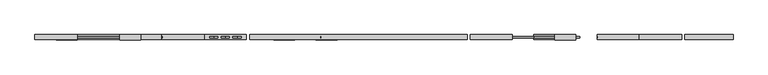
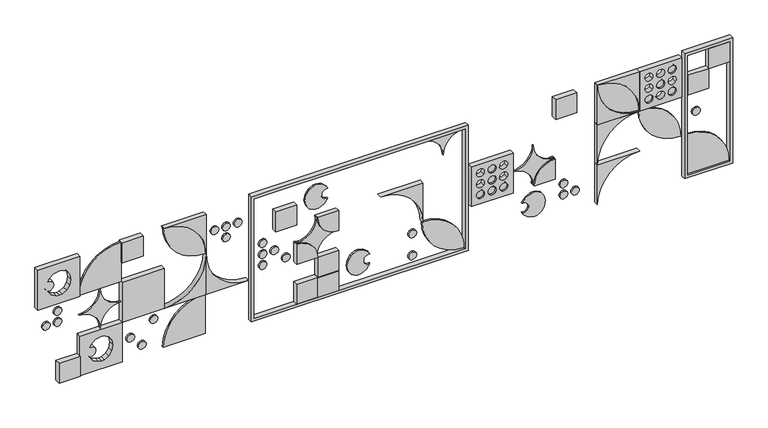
"""IFC4 building model written with IfcOpenShell, lengths in millimetres: proxy geometry, Modelos genéricos - (reduzido)PAINEL VAZADO - 90CM - (reduzido)PAINEL VAZADO - 90CM."""

from ifc_helpers import new_model, si_unit, point, frame, frame_2d, origin, place, context, project, spatial, polyline, circle_curve, trimmed, segment, composite_curve, outline, extrude, source, transform, mapped, element, save
from ifc_brep_helpers import plane_surface, revolved_surface, advanced_brep


def generic_models_16d8a0b0(model_context):
    return source(origin(), model_context, "Body", "SolidModel", [
        extrude(outline(composite_curve([segment(trimmed(circle_curve(frame_2d((660.0, 6604.0616384)), 40.0), [point((700.0, 6604.0616384))], [point((620.0, 6604.0616384))], False, "CARTESIAN"), True, "CONTINUOUS"), segment(trimmed(circle_curve(frame_2d((660.0, 6604.0616384)), 40.0), [point((620.0, 6604.0616384))], [point((700.0, 6604.0616384))], False, "CARTESIAN"), True, "CONTINUOUS")], self_intersect=False)), frame((0.0, -35.0, 0.0), z_axis=(0.0, 1.0, 0.0), x_axis=(0.0, 0.0, 1.0)), (0.0, 0.0, 1.0), 15.0),
        extrude(outline(composite_curve([segment(trimmed(circle_curve(frame_2d((870.0, 1290.0)), 420.0), [point((870.0, 1710.0))], [point((1290.0, 1290.0))], False, "CARTESIAN"), True, "CONTINUOUS"), segment(trimmed(circle_curve(frame_2d((1290.0, 1710.0)), 420.0), [point((1290.0, 1290.0))], [point((870.0, 1710.0))], False, "CARTESIAN"), True, "CONTINUOUS")], self_intersect=False)), frame((0.0, -35.0, 0.0), z_axis=(0.0, 1.0, 0.0), x_axis=(0.0, 0.0, 1.0)), (0.0, 0.0, 1.0), 15.0),
        extrude(outline(composite_curve([segment(polyline([(450.0, 3870.0), (870.0, 3870.0), (870.0, 3450.0)]), True, "CONTINUOUS"), segment(trimmed(circle_curve(frame_2d((450.0, 3450.0)), 420.0), [point((870.0, 3450.0))], [point((450.0, 3870.0))], True, "CARTESIAN"), True, "CONTINUOUS")], self_intersect=False)), frame((0.0, -50.0, 0.0), z_axis=(0.0, 1.0, 0.0), x_axis=(0.0, 0.0, 1.0)), (0.0, 0.0, 1.0), 50.0),
        extrude(outline(composite_curve([segment(trimmed(circle_curve(frame_2d((1195.9383616, 6355.9383616)), 40.0), [point((1235.9383616, 6355.9383616))], [point((1155.9383616, 6355.9383616))], False, "CARTESIAN"), True, "CONTINUOUS"), segment(trimmed(circle_curve(frame_2d((1195.9383616, 6355.9383616)), 40.0), [point((1155.9383616, 6355.9383616))], [point((1235.9383616, 6355.9383616))], False, "CARTESIAN"), True, "CONTINUOUS")], self_intersect=False)), frame((0.0, -35.0, 0.0), z_axis=(0.0, 1.0, 0.0), x_axis=(0.0, 0.0, 1.0)), (0.0, 0.0, 1.0), 15.0),
        extrude(outline(composite_curve([segment(polyline([(30.0, 1710.0), (450.0, 1710.0)]), True, "CONTINUOUS"), segment(trimmed(circle_curve(frame_2d((30.0, 1710.0)), 420.0), [point((450.0, 1710.0))], [point((30.0, 1290.0))], False, "CARTESIAN"), True, "CONTINUOUS"), segment(polyline([(30.0, 1290.0), (30.0, 1710.0)]), True, "CONTINUOUS")], self_intersect=False)), frame((0.0, -35.0, 0.0), z_axis=(0.0, 1.0, 0.0), x_axis=(0.0, 0.0, 1.0)), (0.0, 0.0, 1.0), 15.0),
        extrude(outline(composite_curve([segment(polyline([(870.0, 1710.0), (450.0, 1710.0), (450.0, 2130.0)]), True, "CONTINUOUS"), segment(trimmed(circle_curve(frame_2d((870.0, 2130.0)), 420.0), [point((450.0, 2130.0))], [point((870.0, 1710.0))], True, "CARTESIAN"), True, "CONTINUOUS")], self_intersect=False)), frame((0.0, -50.0, 0.0), z_axis=(0.0, 1.0, 0.0), x_axis=(0.0, 0.0, 1.0)), (0.0, 0.0, 1.0), 50.0),
        extrude(outline(polyline([(30.0, 870.0), (450.0, 870.0), (450.0, 450.0), (30.0, 450.0), (30.0, 870.0)]), holes=[composite_curve([segment(polyline([(357.751931, 610.1618033), (371.3797598, 667.3986814), (368.1516151, 692.1601848), (343.2895761, 736.7788723), (298.4897299, 767.655962), (242.6252354, 778.6758678), (186.7607408, 767.655962), (141.9608946, 736.7788723), (117.0988556, 692.1601848), (113.8707109, 667.3986814), (117.3468229, 637.8957399), (144.0396777, 585.1759976), (191.7379869, 549.9753005)]), True, "CONTINUOUS"), segment(trimmed(circle_curve(frame_2d((242.8329614, 560.4172169)), 52.151031), [point((191.7379869, 549.9753005))], [point((293.9674777, 550.1706919))], False, "CARTESIAN"), True, "CONTINUOUS"), segment(polyline([(293.9674777, 550.1706919), (319.7532787, 565.0412277), (357.751931, 610.1618033)]), True, "CONTINUOUS")], self_intersect=False)]), frame((0.0, -50.0, 0.0), z_axis=(0.0, 1.0, 0.0), x_axis=(0.0, 0.0, 1.0)), (0.0, 0.0, 1.0), 50.0),
        extrude(outline(polyline([(6720.0, -50.0), (6720.0, 0.0), (6930.0, 0.0), (6930.0, -50.0), (6720.0, -50.0)])), frame((0.0, 0.0, 1080.0), z_axis=(0.0, 0.0, 1.0), x_axis=(1.0, 0.0, 0.0)), (0.0, 0.0, 1.0), 210.0),
        extrude(outline(composite_curve([segment(trimmed(circle_curve(frame_2d((450.0, 5190.0)), 210.0), [point((450.0, 4980.0))], [point((660.0, 5190.0))], True, "CARTESIAN"), True, "CONTINUOUS"), segment(trimmed(circle_curve(frame_2d((870.0, 5190.0)), 210.0), [point((660.0, 5190.0))], [point((870.0, 4980.0))], True, "CARTESIAN"), True, "CONTINUOUS"), segment(trimmed(circle_curve(frame_2d((870.0, 4770.0)), 210.0), [point((870.0, 4980.0))], [point((660.0, 4770.0))], True, "CARTESIAN"), True, "CONTINUOUS"), segment(trimmed(circle_curve(frame_2d((450.0, 4770.0)), 210.0), [point((660.0, 4770.0))], [point((450.0, 4980.0))], True, "CARTESIAN"), True, "CONTINUOUS")], self_intersect=False)), frame((0.0, -35.0, 0.0), z_axis=(0.0, 1.0, 0.0), x_axis=(0.0, 0.0, 1.0)), (0.0, 0.0, 1.0), 15.0),
        extrude(outline(composite_curve([segment(trimmed(circle_curve(frame_2d((544.953472, 4444.0616384)), 40.0), [point((584.953472, 4444.0616384))], [point((504.953472, 4444.0616384))], False, "CARTESIAN"), True, "CONTINUOUS"), segment(trimmed(circle_curve(frame_2d((544.953472, 4444.0616384)), 40.0), [point((504.953472, 4444.0616384))], [point((584.953472, 4444.0616384))], False, "CARTESIAN"), True, "CONTINUOUS")], self_intersect=False)), frame((0.0, -35.0, 0.0), z_axis=(0.0, 1.0, 0.0), x_axis=(0.0, 0.0, 1.0)), (0.0, 0.0, 1.0), 15.0),
        extrude(outline(composite_curve([segment(polyline([(870.0, 1710.0), (1290.0, 1710.0), (1290.0, 1290.0)]), True, "CONTINUOUS"), segment(trimmed(circle_curve(frame_2d((870.0, 1290.0)), 420.0), [point((1290.0, 1290.0))], [point((870.0, 1710.0))], True, "CARTESIAN"), True, "CONTINUOUS")], self_intersect=False)), frame((0.0, -50.0, 0.0), z_axis=(0.0, 1.0, 0.0), x_axis=(0.0, 0.0, 1.0)), (0.0, 0.0, 1.0), 50.0),
        extrude(outline(polyline([(240.0, -55.0), (240.0, 0.0), (450.0, 0.0), (450.0, -55.0), (240.0, -55.0)])), frame((0.0, 0.0, 30.0), z_axis=(0.0, 0.0, 1.0), x_axis=(1.0, 0.0, 0.0)), (0.0, 0.0, 1.0), 210.0),
        extrude(outline(composite_curve([segment(trimmed(circle_curve(frame_2d((1080.0, 4290.0)), 210.0), [point((1080.0, 4080.0))], [point((1290.0, 4290.0))], True, "CARTESIAN"), True, "CONTINUOUS"), segment(polyline([(1290.0, 4290.0), (1290.0, 3870.0)]), True, "CONTINUOUS"), segment(trimmed(circle_curve(frame_2d((1080.0, 3870.0)), 210.0), [point((1290.0, 3870.0))], [point((1080.0, 4080.0))], True, "CARTESIAN"), True, "CONTINUOUS")], self_intersect=False)), frame((0.0, -35.0, 0.0), z_axis=(0.0, 1.0, 0.0), x_axis=(0.0, 0.0, 1.0)), (0.0, 0.0, 1.0), 15.0),
        extrude(outline(composite_curve([segment(trimmed(circle_curve(frame_2d((660.0, 2400.0)), 40.0), [point((700.0, 2400.0))], [point((620.0, 2400.0))], False, "CARTESIAN"), True, "CONTINUOUS"), segment(trimmed(circle_curve(frame_2d((660.0, 2400.0)), 40.0), [point((620.0, 2400.0))], [point((700.0, 2400.0))], False, "CARTESIAN"), True, "CONTINUOUS")], self_intersect=False)), frame((0.0, -35.0, 0.0), z_axis=(0.0, 1.0, 0.0), x_axis=(0.0, 0.0, 1.0)), (0.0, 0.0, 1.0), 15.0),
        extrude(outline(polyline([(870.0, 6450.0), (1290.0, 6450.0), (1290.0, 6030.0), (870.0, 6030.0), (870.0, 6450.0)]), holes=[composite_curve([segment(trimmed(circle_curve(frame_2d((1080.0, 6124.0616384)), 40.0), [point((1103.5114101, 6091.7009587))], [point((1056.4885899, 6156.4223182))], True, "CARTESIAN"), True, "CONTINUOUS"), segment(trimmed(circle_curve(frame_2d((1080.0, 6124.0616384)), 40.0), [point((1056.4885899, 6156.4223182))], [point((1103.5114101, 6091.7009587))], True, "CARTESIAN"), True, "CONTINUOUS")], self_intersect=False), composite_curve([segment(trimmed(circle_curve(frame_2d((964.953472, 6355.9383616)), 40.0), [point((941.4420619, 6388.2990413))], [point((988.4648821, 6323.5776818))], True, "CARTESIAN"), True, "CONTINUOUS"), segment(trimmed(circle_curve(frame_2d((964.953472, 6355.9383616)), 40.0), [point((988.4648821, 6323.5776818))], [point((941.4420619, 6388.2990413))], True, "CARTESIAN"), True, "CONTINUOUS")], self_intersect=False), composite_curve([segment(trimmed(circle_curve(frame_2d((1195.9383616, 6355.9383616)), 40.0), [point((1172.4269515, 6388.2990413))], [point((1219.4497717, 6323.5776818))], True, "CARTESIAN"), True, "CONTINUOUS"), segment(trimmed(circle_curve(frame_2d((1195.9383616, 6355.9383616)), 40.0), [point((1219.4497717, 6323.5776818))], [point((1172.4269515, 6388.2990413))], True, "CARTESIAN"), True, "CONTINUOUS")], self_intersect=False), composite_curve([segment(trimmed(circle_curve(frame_2d((1080.0, 6240.0)), 40.0), [point((1047.6393202, 6216.4885899))], [point((1112.3606798, 6263.5114101))], True, "CARTESIAN"), True, "CONTINUOUS"), segment(trimmed(circle_curve(frame_2d((1080.0, 6240.0)), 40.0), [point((1112.3606798, 6263.5114101))], [point((1047.6393202, 6216.4885899))], True, "CARTESIAN"), True, "CONTINUOUS")], self_intersect=False), composite_curve([segment(trimmed(circle_curve(frame_2d((964.953472, 6240.0)), 40.0), [point((932.5927922, 6216.4885899))], [point((997.3141518, 6263.5114101))], True, "CARTESIAN"), True, "CONTINUOUS"), segment(trimmed(circle_curve(frame_2d((964.953472, 6240.0)), 40.0), [point((997.3141518, 6263.5114101))], [point((932.5927922, 6216.4885899))], True, "CARTESIAN"), True, "CONTINUOUS")], self_intersect=False), composite_curve([segment(trimmed(circle_curve(frame_2d((1195.9383616, 6240.0)), 40.0), [point((1163.5776818, 6216.4885899))], [point((1228.2990413, 6263.5114101))], True, "CARTESIAN"), True, "CONTINUOUS"), segment(trimmed(circle_curve(frame_2d((1195.9383616, 6240.0)), 40.0), [point((1228.2990413, 6263.5114101))], [point((1163.5776818, 6216.4885899))], True, "CARTESIAN"), True, "CONTINUOUS")], self_intersect=False), composite_curve([segment(trimmed(circle_curve(frame_2d((1080.0, 6355.9383616)), 40.0), [point((1056.4885899, 6388.2990413))], [point((1103.5114101, 6323.5776818))], True, "CARTESIAN"), True, "CONTINUOUS"), segment(trimmed(circle_curve(frame_2d((1080.0, 6355.9383616)), 40.0), [point((1103.5114101, 6323.5776818))], [point((1056.4885899, 6388.2990413))], True, "CARTESIAN"), True, "CONTINUOUS")], self_intersect=False), composite_curve([segment(trimmed(circle_curve(frame_2d((1195.9383616, 6124.0616384)), 40.0), [point((1219.4497717, 6091.7009587))], [point((1172.4269515, 6156.4223182))], True, "CARTESIAN"), True, "CONTINUOUS"), segment(trimmed(circle_curve(frame_2d((1195.9383616, 6124.0616384)), 40.0), [point((1172.4269515, 6156.4223182))], [point((1219.4497717, 6091.7009587))], True, "CARTESIAN"), True, "CONTINUOUS")], self_intersect=False), composite_curve([segment(trimmed(circle_curve(frame_2d((964.953472, 6124.0616384)), 40.0), [point((988.4648821, 6091.7009587))], [point((941.4420619, 6156.4223182))], True, "CARTESIAN"), True, "CONTINUOUS"), segment(trimmed(circle_curve(frame_2d((964.953472, 6124.0616384)), 40.0), [point((941.4420619, 6156.4223182))], [point((988.4648821, 6091.7009587))], True, "CARTESIAN"), True, "CONTINUOUS")], self_intersect=False)]), frame((0.0, -50.0, 0.0), z_axis=(0.0, 1.0, 0.0), x_axis=(0.0, 0.0, 1.0)), (0.0, 0.0, 1.0), 50.0),
        extrude(outline(composite_curve([segment(trimmed(circle_curve(frame_2d((544.953472, 2284.0616384)), 40.0), [point((584.953472, 2284.0616384))], [point((504.953472, 2284.0616384))], False, "CARTESIAN"), True, "CONTINUOUS"), segment(trimmed(circle_curve(frame_2d((544.953472, 2284.0616384)), 40.0), [point((504.953472, 2284.0616384))], [point((584.953472, 2284.0616384))], False, "CARTESIAN"), True, "CONTINUOUS")], self_intersect=False)), frame((0.0, -35.0, 0.0), z_axis=(0.0, 1.0, 0.0), x_axis=(0.0, 0.0, 1.0)), (0.0, 0.0, 1.0), 15.0),
        extrude(outline(composite_curve([segment(trimmed(circle_curve(frame_2d((1080.0, 1804.0616384)), 40.0), [point((1120.0, 1804.0616384))], [point((1040.0, 1804.0616384))], False, "CARTESIAN"), True, "CONTINUOUS"), segment(trimmed(circle_curve(frame_2d((1080.0, 1804.0616384)), 40.0), [point((1040.0, 1804.0616384))], [point((1120.0, 1804.0616384))], False, "CARTESIAN"), True, "CONTINUOUS")], self_intersect=False)), frame((0.0, -35.0, 0.0), z_axis=(0.0, 1.0, 0.0), x_axis=(0.0, 0.0, 1.0)), (0.0, 0.0, 1.0), 15.0),
        extrude(outline(composite_curve([segment(trimmed(circle_curve(frame_2d((450.0, 3030.0)), 210.0), [point((450.0, 2820.0))], [point((660.0, 3030.0))], True, "CARTESIAN"), True, "CONTINUOUS"), segment(trimmed(circle_curve(frame_2d((870.0, 3030.0)), 210.0), [point((660.0, 3030.0))], [point((870.0, 2820.0))], True, "CARTESIAN"), True, "CONTINUOUS"), segment(trimmed(circle_curve(frame_2d((870.0, 2610.0)), 210.0), [point((870.0, 2820.0))], [point((660.0, 2610.0))], True, "CARTESIAN"), True, "CONTINUOUS"), segment(trimmed(circle_curve(frame_2d((450.0, 2610.0)), 210.0), [point((660.0, 2610.0))], [point((450.0, 2820.0))], True, "CARTESIAN"), True, "CONTINUOUS")], self_intersect=False)), frame((0.0, -35.0, 0.0), z_axis=(0.0, 1.0, 0.0), x_axis=(0.0, 0.0, 1.0)), (0.0, 0.0, 1.0), 15.0),
        extrude(outline(polyline([(1320.0, 6960.0), (1320.0, 6480.0), (0.0, 6480.0), (0.0, 6960.0), (1320.0, 6960.0)]), holes=[polyline([(1290.0, 6930.0), (30.0, 6930.0), (30.0, 6510.0), (1290.0, 6510.0), (1290.0, 6930.0)])]), frame((0.0, -50.0, 0.0), z_axis=(0.0, 1.0, 0.0), x_axis=(0.0, 0.0, 1.0)), (0.0, 0.0, 1.0), 50.0),
        extrude(outline(composite_curve([segment(polyline([(870.0, 3030.0), (870.0, 2820.0)]), True, "CONTINUOUS"), segment(trimmed(circle_curve(frame_2d((870.0, 3030.0)), 210.0), [point((870.0, 2820.0))], [point((660.0, 3030.0))], False, "CARTESIAN"), True, "CONTINUOUS"), segment(polyline([(660.0, 3030.0), (870.0, 3030.0)]), True, "CONTINUOUS")], self_intersect=False)), frame((0.0, -50.0, 0.0), z_axis=(0.0, 1.0, 0.0), x_axis=(0.0, 0.0, 1.0)), (0.0, 0.0, 1.0), 50.0),
        extrude(outline(composite_curve([segment(trimmed(circle_curve(frame_2d((124.953472, 3775.9383616)), 40.0), [point((164.953472, 3775.9383616))], [point((84.953472, 3775.9383616))], False, "CARTESIAN"), True, "CONTINUOUS"), segment(trimmed(circle_curve(frame_2d((124.953472, 3775.9383616)), 40.0), [point((84.953472, 3775.9383616))], [point((164.953472, 3775.9383616))], False, "CARTESIAN"), True, "CONTINUOUS")], self_intersect=False)), frame((0.0, -35.0, 0.0), z_axis=(0.0, 1.0, 0.0), x_axis=(0.0, 0.0, 1.0)), (0.0, 0.0, 1.0), 15.0),
        extrude(outline(polyline([(1320.0, 4320.0), (1320.0, 2160.0), (0.0, 2160.0), (0.0, 4320.0), (1320.0, 4320.0)]), holes=[polyline([(1290.0, 4290.0), (30.0, 4290.0), (30.0, 2190.0), (1290.0, 2190.0), (1290.0, 4290.0)])]), frame((0.0, -50.0, 0.0), z_axis=(0.0, 1.0, 0.0), x_axis=(0.0, 0.0, 1.0)), (0.0, 0.0, 1.0), 50.0),
        extrude(outline(polyline([(870.0, -55.0), (870.0, 0.0), (1080.0, 0.0), (1080.0, -55.0), (870.0, -55.0)])), frame((0.0, 0.0, 1080.0), z_axis=(0.0, 0.0, 1.0), x_axis=(1.0, 0.0, 0.0)), (0.0, 0.0, 1.0), 210.0),
        extrude(outline(composite_curve([segment(trimmed(circle_curve(frame_2d((870.0, 5610.0)), 420.0), [point((870.0, 6030.0))], [point((1290.0, 5610.0))], False, "CARTESIAN"), True, "CONTINUOUS"), segment(trimmed(circle_curve(frame_2d((1290.0, 6030.0)), 420.0), [point((1290.0, 5610.0))], [point((870.0, 6030.0))], False, "CARTESIAN"), True, "CONTINUOUS")], self_intersect=False)), frame((0.0, -35.0, 0.0), z_axis=(0.0, 1.0, 0.0), x_axis=(0.0, 0.0, 1.0)), (0.0, 0.0, 1.0), 15.0),
        extrude(outline(composite_curve([segment(trimmed(circle_curve(frame_2d((660.0, 240.0)), 40.0), [point((700.0, 240.0))], [point((620.0, 240.0))], False, "CARTESIAN"), True, "CONTINUOUS"), segment(trimmed(circle_curve(frame_2d((660.0, 240.0)), 40.0), [point((620.0, 240.0))], [point((700.0, 240.0))], False, "CARTESIAN"), True, "CONTINUOUS")], self_intersect=False)), frame((0.0, -35.0, 0.0), z_axis=(0.0, 1.0, 0.0), x_axis=(0.0, 0.0, 1.0)), (0.0, 0.0, 1.0), 15.0),
        extrude(outline(composite_curve([segment(trimmed(circle_curve(frame_2d((450.0, 870.0)), 210.0), [point((450.0, 660.0))], [point((660.0, 870.0))], True, "CARTESIAN"), True, "CONTINUOUS"), segment(trimmed(circle_curve(frame_2d((870.0, 870.0)), 210.0), [point((660.0, 870.0))], [point((870.0, 660.0))], True, "CARTESIAN"), True, "CONTINUOUS"), segment(trimmed(circle_curve(frame_2d((870.0, 450.0)), 210.0), [point((870.0, 660.0))], [point((660.0, 450.0))], True, "CARTESIAN"), True, "CONTINUOUS"), segment(trimmed(circle_curve(frame_2d((450.0, 450.0)), 210.0), [point((660.0, 450.0))], [point((450.0, 660.0))], True, "CARTESIAN"), True, "CONTINUOUS")], self_intersect=False)), frame((0.0, -35.0, 0.0), z_axis=(0.0, 1.0, 0.0), x_axis=(0.0, 0.0, 1.0)), (0.0, 0.0, 1.0), 15.0),
        extrude(outline(composite_curve([segment(trimmed(circle_curve(frame_2d((124.953472, 1080.0)), 40.0), [point((164.953472, 1080.0))], [point((84.953472, 1080.0))], False, "CARTESIAN"), True, "CONTINUOUS"), segment(trimmed(circle_curve(frame_2d((124.953472, 1080.0)), 40.0), [point((84.953472, 1080.0))], [point((164.953472, 1080.0))], False, "CARTESIAN"), True, "CONTINUOUS")], self_intersect=False)), frame((0.0, -35.0, 0.0), z_axis=(0.0, 1.0, 0.0), x_axis=(0.0, 0.0, 1.0)), (0.0, 0.0, 1.0), 15.0),
        extrude(outline(composite_curve([segment(trimmed(circle_curve(frame_2d((355.9383616, 5284.0616384)), 40.0), [point((395.9383616, 5284.0616384))], [point((315.9383616, 5284.0616384))], False, "CARTESIAN"), True, "CONTINUOUS"), segment(trimmed(circle_curve(frame_2d((355.9383616, 5284.0616384)), 40.0), [point((315.9383616, 5284.0616384))], [point((395.9383616, 5284.0616384))], False, "CARTESIAN"), True, "CONTINUOUS")], self_intersect=False)), frame((0.0, -35.0, 0.0), z_axis=(0.0, 1.0, 0.0), x_axis=(0.0, 0.0, 1.0)), (0.0, 0.0, 1.0), 15.0),
        extrude(outline(polyline([(2610.0, -50.0), (2610.0, 0.0), (2820.0, 0.0), (2820.0, -50.0), (2610.0, -50.0)])), frame((0.0, 0.0, 30.0), z_axis=(0.0, 0.0, 1.0), x_axis=(1.0, 0.0, 0.0)), (0.0, 0.0, 1.0), 210.0),
        extrude(outline(composite_curve([segment(trimmed(circle_curve(frame_2d((775.9383616, 240.0)), 40.0), [point((815.9383616, 240.0))], [point((735.9383616, 240.0))], False, "CARTESIAN"), True, "CONTINUOUS"), segment(trimmed(circle_curve(frame_2d((775.9383616, 240.0)), 40.0), [point((735.9383616, 240.0))], [point((815.9383616, 240.0))], False, "CARTESIAN"), True, "CONTINUOUS")], self_intersect=False)), frame((0.0, -35.0, 0.0), z_axis=(0.0, 1.0, 0.0), x_axis=(0.0, 0.0, 1.0)), (0.0, 0.0, 1.0), 15.0),
        extrude(outline(composite_curve([segment(trimmed(circle_curve(frame_2d((240.0, 964.0616384)), 40.0), [point((280.0, 964.0616384))], [point((200.0, 964.0616384))], False, "CARTESIAN"), True, "CONTINUOUS"), segment(trimmed(circle_curve(frame_2d((240.0, 964.0616384)), 40.0), [point((200.0, 964.0616384))], [point((280.0, 964.0616384))], False, "CARTESIAN"), True, "CONTINUOUS")], self_intersect=False)), frame((0.0, -35.0, 0.0), z_axis=(0.0, 1.0, 0.0), x_axis=(0.0, 0.0, 1.0)), (0.0, 0.0, 1.0), 15.0),
        extrude(outline(composite_curve([segment(trimmed(circle_curve(frame_2d((660.0, 124.0616384)), 40.0), [point((700.0, 124.0616384))], [point((620.0, 124.0616384))], False, "CARTESIAN"), True, "CONTINUOUS"), segment(trimmed(circle_curve(frame_2d((660.0, 124.0616384)), 40.0), [point((620.0, 124.0616384))], [point((700.0, 124.0616384))], False, "CARTESIAN"), True, "CONTINUOUS")], self_intersect=False)), frame((0.0, -35.0, 0.0), z_axis=(0.0, 1.0, 0.0), x_axis=(0.0, 0.0, 1.0)), (0.0, 0.0, 1.0), 15.0),
        extrude(outline(composite_curve([segment(trimmed(circle_curve(frame_2d((964.953472, 6124.0616384)), 40.0), [point((1004.953472, 6124.0616384))], [point((924.953472, 6124.0616384))], False, "CARTESIAN"), True, "CONTINUOUS"), segment(trimmed(circle_curve(frame_2d((964.953472, 6124.0616384)), 40.0), [point((924.953472, 6124.0616384))], [point((1004.953472, 6124.0616384))], False, "CARTESIAN"), True, "CONTINUOUS")], self_intersect=False)), frame((0.0, -35.0, 0.0), z_axis=(0.0, 1.0, 0.0), x_axis=(0.0, 0.0, 1.0)), (0.0, 0.0, 1.0), 15.0),
        extrude(outline(composite_curve([segment(trimmed(circle_curve(frame_2d((30.0, 6510.0)), 420.0), [point((30.0, 6930.0))], [point((450.0, 6510.0))], False, "CARTESIAN"), True, "CONTINUOUS"), segment(polyline([(450.0, 6510.0), (30.0, 6510.0), (30.0, 6930.0)]), True, "CONTINUOUS")], self_intersect=False)), frame((0.0, -35.0, 0.0), z_axis=(0.0, 1.0, 0.0), x_axis=(0.0, 0.0, 1.0)), (0.0, 0.0, 1.0), 15.0),
        extrude(outline(composite_curve([segment(trimmed(circle_curve(frame_2d((660.0, 2284.0616384)), 40.0), [point((700.0, 2284.0616384))], [point((620.0, 2284.0616384))], False, "CARTESIAN"), True, "CONTINUOUS"), segment(trimmed(circle_curve(frame_2d((660.0, 2284.0616384)), 40.0), [point((620.0, 2284.0616384))], [point((700.0, 2284.0616384))], False, "CARTESIAN"), True, "CONTINUOUS")], self_intersect=False)), frame((0.0, -35.0, 0.0), z_axis=(0.0, 1.0, 0.0), x_axis=(0.0, 0.0, 1.0)), (0.0, 0.0, 1.0), 15.0),
        extrude(outline(composite_curve([segment(polyline([(870.0, 6030.0), (1290.0, 6030.0), (1290.0, 5610.0)]), True, "CONTINUOUS"), segment(trimmed(circle_curve(frame_2d((870.0, 5610.0)), 420.0), [point((1290.0, 5610.0))], [point((870.0, 6030.0))], True, "CARTESIAN"), True, "CONTINUOUS")], self_intersect=False)), frame((0.0, -50.0, 0.0), z_axis=(0.0, 1.0, 0.0), x_axis=(0.0, 0.0, 1.0)), (0.0, 0.0, 1.0), 50.0),
        extrude(outline(composite_curve([segment(polyline([(984.0396777, 2894.8240024), (1031.7379869, 2930.0246995)]), True, "CONTINUOUS"), segment(trimmed(circle_curve(frame_2d((1082.8329614, 2919.5827831)), 52.151031), [point((1031.7379869, 2930.0246995))], [point((1133.9674777, 2929.8293081))], True, "CARTESIAN"), True, "CONTINUOUS"), segment(polyline([(1133.9674777, 2929.8293081), (1159.7532787, 2914.9587723), (1197.751931, 2869.8381967), (1211.3797598, 2812.6013186), (1208.1516151, 2787.8398152), (1183.2895761, 2743.2211277), (1138.4897299, 2712.344038), (1082.6252354, 2701.3241322), (1026.7607408, 2712.344038), (981.9608946, 2743.2211277), (957.0988556, 2787.8398152), (953.8707109, 2812.6013186), (957.3468229, 2842.1042601), (984.0396777, 2894.8240024)]), True, "CONTINUOUS")], self_intersect=False)), frame((0.0, -35.0, 0.0), z_axis=(0.0, 1.0, 0.0), x_axis=(0.0, 0.0, 1.0)), (0.0, 0.0, 1.0), 15.0),
        extrude(outline(composite_curve([segment(polyline([(870.0, 870.0), (1290.0, 870.0)]), True, "CONTINUOUS"), segment(trimmed(circle_curve(frame_2d((870.0, 870.0)), 420.0), [point((1290.0, 870.0))], [point((870.0, 450.0))], False, "CARTESIAN"), True, "CONTINUOUS"), segment(polyline([(870.0, 450.0), (870.0, 870.0)]), True, "CONTINUOUS")], self_intersect=False)), frame((0.0, -35.0, 0.0), z_axis=(0.0, 1.0, 0.0), x_axis=(0.0, 0.0, 1.0)), (0.0, 0.0, 1.0), 15.0),
        extrude(outline(composite_curve([segment(trimmed(circle_curve(frame_2d((450.0, 5190.0)), 210.0), [point((660.0, 5190.0))], [point((450.0, 4980.0))], False, "CARTESIAN"), True, "CONTINUOUS"), segment(polyline([(450.0, 4980.0), (450.0, 5190.0), (660.0, 5190.0)]), True, "CONTINUOUS")], self_intersect=False)), frame((0.0, -50.0, 0.0), z_axis=(0.0, 1.0, 0.0), x_axis=(0.0, 0.0, 1.0)), (0.0, 0.0, 1.0), 50.0),
        extrude(outline(composite_curve([segment(trimmed(circle_curve(frame_2d((355.9383616, 1195.9383616)), 40.0), [point((395.9383616, 1195.9383616))], [point((315.9383616, 1195.9383616))], False, "CARTESIAN"), True, "CONTINUOUS"), segment(trimmed(circle_curve(frame_2d((355.9383616, 1195.9383616)), 40.0), [point((315.9383616, 1195.9383616))], [point((395.9383616, 1195.9383616))], False, "CARTESIAN"), True, "CONTINUOUS")], self_intersect=False)), frame((0.0, -35.0, 0.0), z_axis=(0.0, 1.0, 0.0), x_axis=(0.0, 0.0, 1.0)), (0.0, 0.0, 1.0), 15.0),
        extrude(outline(polyline([(2820.0, -55.0), (2820.0, 0.0), (3030.0, 0.0), (3030.0, -55.0), (2820.0, -55.0)])), frame((0.0, 0.0, 30.0), z_axis=(0.0, 0.0, 1.0), x_axis=(1.0, 0.0, 0.0)), (0.0, 0.0, 1.0), 210.0),
        extrude(outline(composite_curve([segment(trimmed(circle_curve(frame_2d((1080.0, 2035.9383616)), 40.0), [point((1120.0, 2035.9383616))], [point((1040.0, 2035.9383616))], False, "CARTESIAN"), True, "CONTINUOUS"), segment(trimmed(circle_curve(frame_2d((1080.0, 2035.9383616)), 40.0), [point((1040.0, 2035.9383616))], [point((1120.0, 2035.9383616))], False, "CARTESIAN"), True, "CONTINUOUS")], self_intersect=False)), frame((0.0, -35.0, 0.0), z_axis=(0.0, 1.0, 0.0), x_axis=(0.0, 0.0, 1.0)), (0.0, 0.0, 1.0), 15.0),
        extrude(outline(composite_curve([segment(trimmed(circle_curve(frame_2d((775.9383616, 2284.0616384)), 40.0), [point((815.9383616, 2284.0616384))], [point((735.9383616, 2284.0616384))], False, "CARTESIAN"), True, "CONTINUOUS"), segment(trimmed(circle_curve(frame_2d((775.9383616, 2284.0616384)), 40.0), [point((735.9383616, 2284.0616384))], [point((815.9383616, 2284.0616384))], False, "CARTESIAN"), True, "CONTINUOUS")], self_intersect=False)), frame((0.0, -35.0, 0.0), z_axis=(0.0, 1.0, 0.0), x_axis=(0.0, 0.0, 1.0)), (0.0, 0.0, 1.0), 15.0),
        extrude(outline(composite_curve([segment(polyline([(144.0396777, 3314.8240024), (191.7379869, 3350.0246995)]), True, "CONTINUOUS"), segment(trimmed(circle_curve(frame_2d((242.8329614, 3339.5827831)), 52.151031), [point((191.7379869, 3350.0246995))], [point((293.9674777, 3349.8293081))], True, "CARTESIAN"), True, "CONTINUOUS"), segment(polyline([(293.9674777, 3349.8293081), (319.7532787, 3334.9587723), (357.751931, 3289.8381967), (371.3797598, 3232.6013186), (368.1516151, 3207.8398152), (343.2895761, 3163.2211277), (298.4897299, 3132.344038), (242.6252354, 3121.3241322), (186.7607408, 3132.344038), (141.9608946, 3163.2211277), (117.0988556, 3207.8398152), (113.8707109, 3232.6013186), (117.3468229, 3262.1042601), (144.0396777, 3314.8240024)]), True, "CONTINUOUS")], self_intersect=False)), frame((0.0, -35.0, 0.0), z_axis=(0.0, 1.0, 0.0), x_axis=(0.0, 0.0, 1.0)), (0.0, 0.0, 1.0), 15.0),
        extrude(outline(composite_curve([segment(trimmed(circle_curve(frame_2d((355.9383616, 3775.9383616)), 40.0), [point((395.9383616, 3775.9383616))], [point((315.9383616, 3775.9383616))], False, "CARTESIAN"), True, "CONTINUOUS"), segment(trimmed(circle_curve(frame_2d((355.9383616, 3775.9383616)), 40.0), [point((315.9383616, 3775.9383616))], [point((395.9383616, 3775.9383616))], False, "CARTESIAN"), True, "CONTINUOUS")], self_intersect=False)), frame((0.0, -35.0, 0.0), z_axis=(0.0, 1.0, 0.0), x_axis=(0.0, 0.0, 1.0)), (0.0, 0.0, 1.0), 15.0),
        advanced_brep(
        [(5610.0, -50.0, 450.0), (5610.0, -50.0, 870.0), (5610.0, 0.0, 870.0), (5610.0, 0.0, 450.0), (6030.0, -50.0, 870.0), (6030.0, 0.0, 870.0)],
        [
            (0, 1),
            (1, 2),
            (2, 3),
            (3, 0),
            (4, 0, circle_curve(frame((6030.0, -50.0, 450.0), z_axis=(0.0, -1.0, 0.0), x_axis=(1.0, 0.0, 0.0)), 420.0)),
            (3, 5, circle_curve(frame((6030.0, 0.0, 450.0), z_axis=(0.0, 1.0, 0.0), x_axis=(1.0, 0.0, 0.0)), 420.0)),
            (5, 4),
            (1, 4),
            (5, 2),
        ],
        [
            plane_surface(frame((5610.0, -50.0, 450.0), z_axis=(-1.0, 0.0, 0.0), x_axis=(0.0, 0.0, 1.0))),
            revolved_surface(polyline([(6450.0, 0.0, 450.0), (6450.0, -50.0, 450.0)]), (6030.0, -50.0, 450.0), (0.0, 1.0, 0.0)),
            plane_surface(frame((5610.0, -50.0, 870.0), z_axis=(0.0, 0.0, 1.0), x_axis=(1.0, 0.0, 0.0))),
            plane_surface(frame((5750.0, -50.0, 730.0), z_axis=(0.0, -1.0, 0.0), x_axis=(1.0, 0.0, 0.0))),
            plane_surface(frame((5750.0, 0.0, 730.0), z_axis=(0.0, 1.0, 0.0), x_axis=(1.0, 0.0, 0.0))),
        ],
        [
            (0, [[1, 2, 3, 4]]),
            (1, [[5, -4, 6, 7]]),
            (2, [[8, -7, 9, -2]]),
            (3, [[-8, -1, -5]]),
            (4, [[-9, -6, -3]]),
        ],
    ),
        extrude(outline(composite_curve([segment(polyline([(191.7379869, 4869.9753005), (165.8151142, 4884.8058499), (127.5874629, 4929.985838), (113.8707109, 4987.3986814), (117.0988556, 5012.1601848), (141.9608946, 5056.7788723), (186.7607408, 5087.655962), (242.6252354, 5098.6758678), (298.4897299, 5087.655962), (343.2895761, 5056.7788723), (368.1516151, 5012.1601848), (371.3797598, 4987.3986814), (367.9264934, 4957.9915265), (341.4018473, 4905.4023287), (293.9674777, 4870.1706919)]), True, "CONTINUOUS"), segment(trimmed(circle_curve(frame_2d((242.8329614, 4880.4172169)), 52.151031), [point((293.9674777, 4870.1706919))], [point((191.7379869, 4869.9753005))], True, "CARTESIAN"), True, "CONTINUOUS")], self_intersect=False)), frame((0.0, -35.0, 0.0), z_axis=(0.0, 1.0, 0.0), x_axis=(0.0, 0.0, 1.0)), (0.0, 0.0, 1.0), 15.0),
        extrude(outline(polyline([(870.0, 450.0), (1290.0, 450.0), (1290.0, 30.0), (870.0, 30.0), (870.0, 450.0)]), holes=[composite_curve([segment(polyline([(1197.751931, 190.1618033), (1211.3797598, 247.3986814), (1208.1516151, 272.1601848), (1183.2895761, 316.7788723), (1138.4897299, 347.655962), (1082.6252354, 358.6758678), (1026.7607408, 347.655962), (981.9608946, 316.7788723), (957.0988556, 272.1601848), (953.8707109, 247.3986814), (957.3468229, 217.8957399), (984.0396777, 165.1759976), (1031.7379869, 129.9753005)]), True, "CONTINUOUS"), segment(trimmed(circle_curve(frame_2d((1082.8329614, 140.4172169)), 52.151031), [point((1031.7379869, 129.9753005))], [point((1133.9674777, 130.1706919))], False, "CARTESIAN"), True, "CONTINUOUS"), segment(polyline([(1133.9674777, 130.1706919), (1159.7532787, 145.0412277), (1197.751931, 190.1618033)]), True, "CONTINUOUS")], self_intersect=False)]), frame((0.0, -50.0, 0.0), z_axis=(0.0, 1.0, 0.0), x_axis=(0.0, 0.0, 1.0)), (0.0, 0.0, 1.0), 50.0),
        extrude(outline(composite_curve([segment(trimmed(circle_curve(frame_2d((870.0, 6450.0)), 420.0), [point((870.0, 6030.0))], [point((450.0, 6450.0))], False, "CARTESIAN"), True, "CONTINUOUS"), segment(trimmed(circle_curve(frame_2d((450.0, 6030.0)), 420.0), [point((450.0, 6450.0))], [point((870.0, 6030.0))], False, "CARTESIAN"), True, "CONTINUOUS")], self_intersect=False)), frame((0.0, -35.0, 0.0), z_axis=(0.0, 1.0, 0.0), x_axis=(0.0, 0.0, 1.0)), (0.0, 0.0, 1.0), 15.0),
        extrude(outline(composite_curve([segment(trimmed(circle_curve(frame_2d((450.0, 4290.0)), 420.0), [point((450.0, 3870.0))], [point((30.0, 4290.0))], False, "CARTESIAN"), True, "CONTINUOUS"), segment(trimmed(circle_curve(frame_2d((30.0, 3870.0)), 420.0), [point((30.0, 4290.0))], [point((450.0, 3870.0))], False, "CARTESIAN"), True, "CONTINUOUS")], self_intersect=False)), frame((0.0, -35.0, 0.0), z_axis=(0.0, 1.0, 0.0), x_axis=(0.0, 0.0, 1.0)), (0.0, 0.0, 1.0), 15.0),
        extrude(outline(polyline([(5190.0, -55.0), (5190.0, 0.0), (5400.0, 0.0), (5400.0, -55.0), (5190.0, -55.0)])), frame((0.0, 0.0, 1080.0), z_axis=(0.0, 0.0, 1.0), x_axis=(1.0, 0.0, 0.0)), (0.0, 0.0, 1.0), 210.0),
        extrude(outline(polyline([(2400.0, -55.0), (2400.0, 0.0), (2610.0, 0.0), (2610.0, -55.0), (2400.0, -55.0)])), frame((0.0, 0.0, 870.0), z_axis=(0.0, 0.0, 1.0), x_axis=(1.0, 0.0, 0.0)), (0.0, 0.0, 1.0), 210.0),
        extrude(outline(composite_curve([segment(trimmed(circle_curve(frame_2d((775.9383616, 4560.0)), 40.0), [point((815.9383616, 4560.0))], [point((735.9383616, 4560.0))], False, "CARTESIAN"), True, "CONTINUOUS"), segment(trimmed(circle_curve(frame_2d((775.9383616, 4560.0)), 40.0), [point((735.9383616, 4560.0))], [point((815.9383616, 4560.0))], False, "CARTESIAN"), True, "CONTINUOUS")], self_intersect=False)), frame((0.0, -35.0, 0.0), z_axis=(0.0, 1.0, 0.0), x_axis=(0.0, 0.0, 1.0)), (0.0, 0.0, 1.0), 15.0),
        extrude(outline(composite_curve([segment(trimmed(circle_curve(frame_2d((964.953472, 6355.9383616)), 40.0), [point((1004.953472, 6355.9383616))], [point((924.953472, 6355.9383616))], False, "CARTESIAN"), True, "CONTINUOUS"), segment(trimmed(circle_curve(frame_2d((964.953472, 6355.9383616)), 40.0), [point((924.953472, 6355.9383616))], [point((1004.953472, 6355.9383616))], False, "CARTESIAN"), True, "CONTINUOUS")], self_intersect=False)), frame((0.0, -35.0, 0.0), z_axis=(0.0, 1.0, 0.0), x_axis=(0.0, 0.0, 1.0)), (0.0, 0.0, 1.0), 15.0),
        extrude(outline(composite_curve([segment(trimmed(circle_curve(frame_2d((964.953472, 1920.0)), 40.0), [point((1004.953472, 1920.0))], [point((924.953472, 1920.0))], False, "CARTESIAN"), True, "CONTINUOUS"), segment(trimmed(circle_curve(frame_2d((964.953472, 1920.0)), 40.0), [point((924.953472, 1920.0))], [point((1004.953472, 1920.0))], False, "CARTESIAN"), True, "CONTINUOUS")], self_intersect=False)), frame((0.0, -35.0, 0.0), z_axis=(0.0, 1.0, 0.0), x_axis=(0.0, 0.0, 1.0)), (0.0, 0.0, 1.0), 15.0),
        extrude(outline(composite_curve([segment(trimmed(circle_curve(frame_2d((544.953472, 4675.9383616)), 40.0), [point((584.953472, 4675.9383616))], [point((504.953472, 4675.9383616))], False, "CARTESIAN"), True, "CONTINUOUS"), segment(trimmed(circle_curve(frame_2d((544.953472, 4675.9383616)), 40.0), [point((504.953472, 4675.9383616))], [point((584.953472, 4675.9383616))], False, "CARTESIAN"), True, "CONTINUOUS")], self_intersect=False)), frame((0.0, -35.0, 0.0), z_axis=(0.0, 1.0, 0.0), x_axis=(0.0, 0.0, 1.0)), (0.0, 0.0, 1.0), 15.0),
        extrude(outline(composite_curve([segment(trimmed(circle_curve(frame_2d((240.0, 5400.0)), 40.0), [point((280.0, 5400.0))], [point((200.0, 5400.0))], False, "CARTESIAN"), True, "CONTINUOUS"), segment(trimmed(circle_curve(frame_2d((240.0, 5400.0)), 40.0), [point((200.0, 5400.0))], [point((280.0, 5400.0))], False, "CARTESIAN"), True, "CONTINUOUS")], self_intersect=False)), frame((0.0, -35.0, 0.0), z_axis=(0.0, 1.0, 0.0), x_axis=(0.0, 0.0, 1.0)), (0.0, 0.0, 1.0), 15.0),
        extrude(outline(composite_curve([segment(trimmed(circle_curve(frame_2d((1080.0, 6240.0)), 40.0), [point((1120.0, 6240.0))], [point((1040.0, 6240.0))], False, "CARTESIAN"), True, "CONTINUOUS"), segment(trimmed(circle_curve(frame_2d((1080.0, 6240.0)), 40.0), [point((1040.0, 6240.0))], [point((1120.0, 6240.0))], False, "CARTESIAN"), True, "CONTINUOUS")], self_intersect=False)), frame((0.0, -35.0, 0.0), z_axis=(0.0, 1.0, 0.0), x_axis=(0.0, 0.0, 1.0)), (0.0, 0.0, 1.0), 15.0),
        extrude(outline(polyline([(450.0, 4770.0), (870.0, 4770.0), (870.0, 4350.0), (450.0, 4350.0), (450.0, 4770.0)]), holes=[composite_curve([segment(trimmed(circle_curve(frame_2d((660.0, 4444.0616384)), 40.0), [point((683.5114101, 4411.7009587))], [point((636.4885899, 4476.4223182))], True, "CARTESIAN"), True, "CONTINUOUS"), segment(trimmed(circle_curve(frame_2d((660.0, 4444.0616384)), 40.0), [point((636.4885899, 4476.4223182))], [point((683.5114101, 4411.7009587))], True, "CARTESIAN"), True, "CONTINUOUS")], self_intersect=False), composite_curve([segment(trimmed(circle_curve(frame_2d((544.953472, 4675.9383616)), 40.0), [point((521.4420619, 4708.2990413))], [point((568.4648821, 4643.5776818))], True, "CARTESIAN"), True, "CONTINUOUS"), segment(trimmed(circle_curve(frame_2d((544.953472, 4675.9383616)), 40.0), [point((568.4648821, 4643.5776818))], [point((521.4420619, 4708.2990413))], True, "CARTESIAN"), True, "CONTINUOUS")], self_intersect=False), composite_curve([segment(trimmed(circle_curve(frame_2d((775.9383616, 4675.9383616)), 40.0), [point((752.4269515, 4708.2990413))], [point((799.4497717, 4643.5776818))], True, "CARTESIAN"), True, "CONTINUOUS"), segment(trimmed(circle_curve(frame_2d((775.9383616, 4675.9383616)), 40.0), [point((799.4497717, 4643.5776818))], [point((752.4269515, 4708.2990413))], True, "CARTESIAN"), True, "CONTINUOUS")], self_intersect=False), composite_curve([segment(trimmed(circle_curve(frame_2d((660.0, 4560.0)), 40.0), [point((627.6393202, 4536.4885899))], [point((692.3606798, 4583.5114101))], True, "CARTESIAN"), True, "CONTINUOUS"), segment(trimmed(circle_curve(frame_2d((660.0, 4560.0)), 40.0), [point((692.3606798, 4583.5114101))], [point((627.6393202, 4536.4885899))], True, "CARTESIAN"), True, "CONTINUOUS")], self_intersect=False), composite_curve([segment(trimmed(circle_curve(frame_2d((544.953472, 4560.0)), 40.0), [point((512.5927922, 4536.4885899))], [point((577.3141518, 4583.5114101))], True, "CARTESIAN"), True, "CONTINUOUS"), segment(trimmed(circle_curve(frame_2d((544.953472, 4560.0)), 40.0), [point((577.3141518, 4583.5114101))], [point((512.5927922, 4536.4885899))], True, "CARTESIAN"), True, "CONTINUOUS")], self_intersect=False), composite_curve([segment(trimmed(circle_curve(frame_2d((775.9383616, 4560.0)), 40.0), [point((743.5776818, 4536.4885899))], [point((808.2990413, 4583.5114101))], True, "CARTESIAN"), True, "CONTINUOUS"), segment(trimmed(circle_curve(frame_2d((775.9383616, 4560.0)), 40.0), [point((808.2990413, 4583.5114101))], [point((743.5776818, 4536.4885899))], True, "CARTESIAN"), True, "CONTINUOUS")], self_intersect=False), composite_curve([segment(trimmed(circle_curve(frame_2d((660.0, 4675.9383616)), 40.0), [point((636.4885899, 4708.2990413))], [point((683.5114101, 4643.5776818))], True, "CARTESIAN"), True, "CONTINUOUS"), segment(trimmed(circle_curve(frame_2d((660.0, 4675.9383616)), 40.0), [point((683.5114101, 4643.5776818))], [point((636.4885899, 4708.2990413))], True, "CARTESIAN"), True, "CONTINUOUS")], self_intersect=False), composite_curve([segment(trimmed(circle_curve(frame_2d((775.9383616, 4444.0616384)), 40.0), [point((799.4497717, 4411.7009587))], [point((752.4269515, 4476.4223182))], True, "CARTESIAN"), True, "CONTINUOUS"), segment(trimmed(circle_curve(frame_2d((775.9383616, 4444.0616384)), 40.0), [point((752.4269515, 4476.4223182))], [point((799.4497717, 4411.7009587))], True, "CARTESIAN"), True, "CONTINUOUS")], self_intersect=False), composite_curve([segment(trimmed(circle_curve(frame_2d((544.953472, 4444.0616384)), 40.0), [point((568.4648821, 4411.7009587))], [point((521.4420619, 4476.4223182))], True, "CARTESIAN"), True, "CONTINUOUS"), segment(trimmed(circle_curve(frame_2d((544.953472, 4444.0616384)), 40.0), [point((521.4420619, 4476.4223182))], [point((568.4648821, 4411.7009587))], True, "CARTESIAN"), True, "CONTINUOUS")], self_intersect=False)]), frame((0.0, -50.0, 0.0), z_axis=(0.0, 1.0, 0.0), x_axis=(0.0, 0.0, 1.0)), (0.0, 0.0, 1.0), 50.0),
        extrude(outline(composite_curve([segment(trimmed(circle_curve(frame_2d((544.953472, 4560.0)), 40.0), [point((584.953472, 4560.0))], [point((504.953472, 4560.0))], False, "CARTESIAN"), True, "CONTINUOUS"), segment(trimmed(circle_curve(frame_2d((544.953472, 4560.0)), 40.0), [point((504.953472, 4560.0))], [point((584.953472, 4560.0))], False, "CARTESIAN"), True, "CONTINUOUS")], self_intersect=False)), frame((0.0, -35.0, 0.0), z_axis=(0.0, 1.0, 0.0), x_axis=(0.0, 0.0, 1.0)), (0.0, 0.0, 1.0), 15.0),
        advanced_brep(
        [(6030.0, -50.0, 450.0), (5610.0, -50.0, 30.0), (5610.0, 0.0, 30.0), (6030.0, 0.0, 450.0), (5610.0, -50.0, 450.0), (5610.0, 0.0, 450.0)],
        [
            (0, 1, circle_curve(frame((6030.0, -50.0, 30.0), z_axis=(0.0, -1.0, 0.0), x_axis=(0.0, 0.0, -1.0)), 420.0)),
            (1, 2),
            (2, 3, circle_curve(frame((6030.0, 0.0, 30.0), z_axis=(0.0, 1.0, 0.0), x_axis=(0.0, 0.0, -1.0)), 420.0)),
            (3, 0),
            (4, 0),
            (3, 5),
            (5, 4),
            (1, 4),
            (5, 2),
        ],
        [
            revolved_surface(polyline([(6030.0, 0.0, -390.0), (6030.0, -50.0, -390.0)]), (6030.0, -50.0, 30.0), (0.0, 1.0, 0.0)),
            plane_surface(frame((5610.0, -50.0, 450.0), z_axis=(0.0, 0.0, 1.0), x_axis=(1.0, 0.0, 0.0))),
            plane_surface(frame((5610.0, -50.0, 30.0), z_axis=(-1.0, 0.0, 0.0), x_axis=(0.0, 0.0, 1.0))),
            plane_surface(frame((5750.0, 0.0, 310.0), z_axis=(0.0, 1.0, 0.0), x_axis=(0.0, 0.0, 1.0))),
            plane_surface(frame((5750.0, -50.0, 310.0), z_axis=(0.0, -1.0, 0.0), x_axis=(0.0, 0.0, 1.0))),
        ],
        [
            (0, [[1, 2, 3, 4]]),
            (1, [[5, -4, 6, 7]]),
            (2, [[8, -7, 9, -2]]),
            (3, [[-9, -6, -3]]),
            (4, [[-8, -1, -5]]),
        ],
    ),
        extrude(outline(composite_curve([segment(trimmed(circle_curve(frame_2d((240.0, 5284.0616384)), 40.0), [point((280.0, 5284.0616384))], [point((200.0, 5284.0616384))], False, "CARTESIAN"), True, "CONTINUOUS"), segment(trimmed(circle_curve(frame_2d((240.0, 5284.0616384)), 40.0), [point((200.0, 5284.0616384))], [point((280.0, 5284.0616384))], False, "CARTESIAN"), True, "CONTINUOUS")], self_intersect=False)), frame((0.0, -35.0, 0.0), z_axis=(0.0, 1.0, 0.0), x_axis=(0.0, 0.0, 1.0)), (0.0, 0.0, 1.0), 15.0),
        extrude(outline(composite_curve([segment(trimmed(circle_curve(frame_2d((660.0, 4560.0)), 40.0), [point((700.0, 4560.0))], [point((620.0, 4560.0))], False, "CARTESIAN"), True, "CONTINUOUS"), segment(trimmed(circle_curve(frame_2d((660.0, 4560.0)), 40.0), [point((620.0, 4560.0))], [point((700.0, 4560.0))], False, "CARTESIAN"), True, "CONTINUOUS")], self_intersect=False)), frame((0.0, -35.0, 0.0), z_axis=(0.0, 1.0, 0.0), x_axis=(0.0, 0.0, 1.0)), (0.0, 0.0, 1.0), 15.0),
        extrude(outline(polyline([(2820.0, -50.0), (2820.0, 0.0), (3030.0, 0.0), (3030.0, -50.0), (2820.0, -50.0)])), frame((0.0, 0.0, 240.0), z_axis=(0.0, 0.0, 1.0), x_axis=(1.0, 0.0, 0.0)), (0.0, 0.0, 1.0), 210.0),
        extrude(outline(composite_curve([segment(trimmed(circle_curve(frame_2d((544.953472, 2515.9383616)), 40.0), [point((584.953472, 2515.9383616))], [point((504.953472, 2515.9383616))], False, "CARTESIAN"), True, "CONTINUOUS"), segment(trimmed(circle_curve(frame_2d((544.953472, 2515.9383616)), 40.0), [point((504.953472, 2515.9383616))], [point((584.953472, 2515.9383616))], False, "CARTESIAN"), True, "CONTINUOUS")], self_intersect=False)), frame((0.0, -35.0, 0.0), z_axis=(0.0, 1.0, 0.0), x_axis=(0.0, 0.0, 1.0)), (0.0, 0.0, 1.0), 15.0),
        extrude(outline(polyline([(6510.0, -50.0), (6510.0, 0.0), (6720.0, 0.0), (6720.0, -50.0), (6510.0, -50.0)])), frame((0.0, 0.0, 870.0), z_axis=(0.0, 0.0, 1.0), x_axis=(1.0, 0.0, 0.0)), (0.0, 0.0, 1.0), 210.0),
        extrude(outline(composite_curve([segment(trimmed(circle_curve(frame_2d((1080.0, 1920.0)), 40.0), [point((1120.0, 1920.0))], [point((1040.0, 1920.0))], False, "CARTESIAN"), True, "CONTINUOUS"), segment(trimmed(circle_curve(frame_2d((1080.0, 1920.0)), 40.0), [point((1040.0, 1920.0))], [point((1120.0, 1920.0))], False, "CARTESIAN"), True, "CONTINUOUS")], self_intersect=False)), frame((0.0, -35.0, 0.0), z_axis=(0.0, 1.0, 0.0), x_axis=(0.0, 0.0, 1.0)), (0.0, 0.0, 1.0), 15.0),
        extrude(outline(composite_curve([segment(polyline([(6030.0, 870.0), (5610.0, 870.0), (5610.0, 1290.0)]), True, "CONTINUOUS"), segment(trimmed(circle_curve(frame_2d((6030.0, 1290.0)), 420.0), [point((5610.0, 1290.0))], [point((6030.0, 870.0))], True, "CARTESIAN"), True, "CONTINUOUS")], self_intersect=False)), frame((0.0, 0.0, 0.0), z_axis=(0.0, -1.0, 0.0), x_axis=(1.0, 0.0, 0.0)), (0.0, 0.0, 1.0), 50.0),
        extrude(outline(composite_curve([segment(polyline([(450.0, 2610.0), (450.0, 2820.0)]), True, "CONTINUOUS"), segment(trimmed(circle_curve(frame_2d((450.0, 2610.0)), 210.0), [point((450.0, 2820.0))], [point((660.0, 2610.0))], False, "CARTESIAN"), True, "CONTINUOUS"), segment(polyline([(660.0, 2610.0), (450.0, 2610.0)]), True, "CONTINUOUS")], self_intersect=False)), frame((0.0, -50.0, 0.0), z_axis=(0.0, 1.0, 0.0), x_axis=(0.0, 0.0, 1.0)), (0.0, 0.0, 1.0), 50.0),
        extrude(outline(composite_curve([segment(polyline([(450.0, 1710.0), (870.0, 1710.0)]), True, "CONTINUOUS"), segment(trimmed(circle_curve(frame_2d((870.0, 1290.0)), 420.0), [point((870.0, 1710.0))], [point((450.0, 1290.0))], True, "CARTESIAN"), True, "CONTINUOUS"), segment(polyline([(450.0, 1290.0), (450.0, 1710.0)]), True, "CONTINUOUS")], self_intersect=False)), frame((0.0, -50.0, 0.0), z_axis=(0.0, 1.0, 0.0), x_axis=(0.0, 0.0, 1.0)), (0.0, 0.0, 1.0), 50.0),
        extrude(outline(polyline([(870.0, -50.0), (870.0, 0.0), (1290.0, 0.0), (1290.0, -50.0), (870.0, -50.0)])), frame((0.0, 0.0, 450.0), z_axis=(0.0, 0.0, 1.0), x_axis=(1.0, 0.0, 0.0)), (0.0, 0.0, 1.0), 420.0),
    ])


if __name__ == "__main__":
    model = new_model("IFC4")
    model_context = context("Model", 3, world=origin())
    ifc_project = project(units=[si_unit("LENGTHUNIT", "METRE", prefix="MILLI")], contexts=[model_context])
    site = spatial("IfcSite", under=ifc_project)
    building = spatial("IfcBuilding", under=site)
    placement = place(None, origin())
    generic_models_shape = generic_models_16d8a0b0(model_context)
    element("IfcBuildingElementProxy", 1, Name="Modelos genéricos - (reduzido)PAINEL VAZADO - 90CM - (reduzido)PAINEL VAZADO - 90CM", ObjectType="Modelos genéricos - (reduzido)PAINEL VAZADO - 90CM - (reduzido)PAINEL VAZADO - 90CM", at=placement, inside=building, context=model_context, shape_type="MappedRepresentation", body=[
        mapped(generic_models_shape, transform((0.0, 0.0, 0.0), x_axis=(1.0, 0.0, 0.0), y_axis=(0.0, 1.0, 0.0), z_axis=(0.0, 0.0, 1.0))),
    ])
    save(model, "model.ifc")
